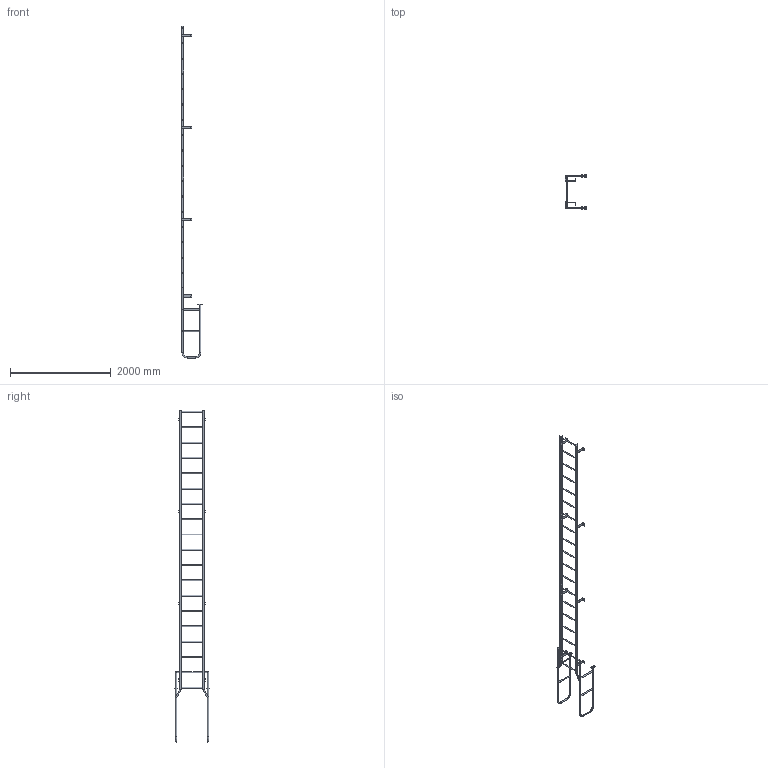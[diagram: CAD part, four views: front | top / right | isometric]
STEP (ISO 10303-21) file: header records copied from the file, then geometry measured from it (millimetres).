
FILE_DESCRIPTION(/* description */ (''),/* implementation_level */ '2;1');
FILE_NAME(/* name */ 'P:\MIKEL & KAREN\3570237 F19W SIMPLIFIED PART.stp',/* time_stamp */ '2018-07-02T15:51:13-04:00',/* author */ ('stephanie'),/* organization */ (''),/* preprocessor_version */ 'ST-DEVELOPER v16.1',/* originating_system */ 'Autodesk Inventor 2016',/* authorisation */ '');
FILE_SCHEMA (('AUTOMOTIVE_DESIGN { 1 0 10303 214 3 1 1 }'));
Length unit declared in the file: centimetre
Products named in the file (1): 3570237 F19W SIMPLIFIED PART
Bounding box: 425.58 x 685.8 x 6604 mm (x, y, z)
Volume: 10613356.5 mm3; surface area: 3955572.1 mm2
Topology: 27 solids, 27 shells, 345 faces, 883 edges, 586 vertices
Faces by surface type: plane 179, cylinder 158, torus 8
Full cylindrical faces by diameter (mm): 10.319 x4, 14.287 x8, 19.05 x19, 22.098 x10, 22.225 x38, 25.4 x10
Entity records: 10557 total; most frequent: CARTESIAN_POINT 2016, DIRECTION 1746, ORIENTED_EDGE 1480, EDGE_CURVE 734, AXIS2_PLACEMENT_3D 682, EDGE_LOOP 550, VERTEX_POINT 536, LINE 382
